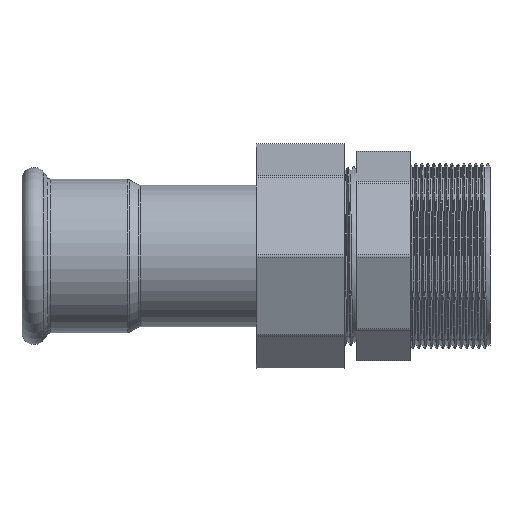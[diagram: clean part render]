
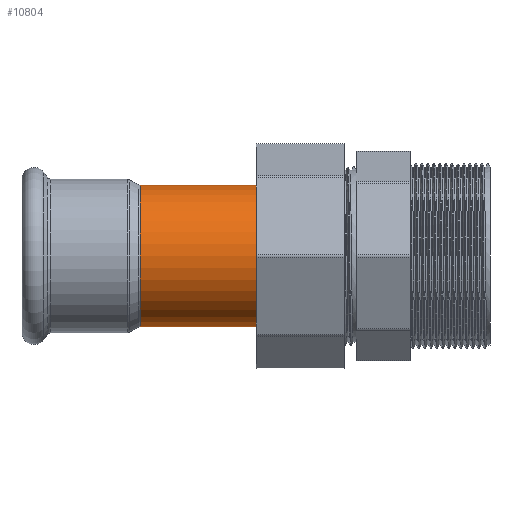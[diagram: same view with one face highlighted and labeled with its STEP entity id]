
A CAD part, front view. The second image highlights one B-rep face of the part: STEP entity #10804.
In plain terms, the highlighted cylindrical face has radius 17.65 mm (diameter 35.3 mm), a partial arc.
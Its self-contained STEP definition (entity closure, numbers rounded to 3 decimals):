
#213 = ORIENTED_EDGE ( 'NONE', *, *, #7346, .F. ) ;
#675 = LINE ( 'NONE', #7957, #11066 ) ;
#1008 = EDGE_CURVE ( 'NONE', #8528, #7680, #6172, .T. ) ;
#1134 = VERTEX_POINT ( 'NONE', #10989 ) ;
#2545 = DIRECTION ( 'NONE',  ( -1., 0., 0. ) ) ;
#2606 = ORIENTED_EDGE ( 'NONE', *, *, #1008, .T. ) ;
#2782 = FACE_OUTER_BOUND ( 'NONE', #10448, .T. ) ;
#2907 = EDGE_CURVE ( 'NONE', #8528, #1134, #7366, .T. ) ;
#2908 = DIRECTION ( 'NONE',  ( 1., 0., 0. ) ) ;
#2976 = DIRECTION ( 'NONE',  ( 0., 0., 1. ) ) ;
#3083 = DIRECTION ( 'NONE',  ( 0., 0., 1. ) ) ;
#3209 = AXIS2_PLACEMENT_3D ( 'NONE', #4527, #2908, #3738 ) ;
#3680 = CARTESIAN_POINT ( 'NONE',  ( 10., 0., 17.65 ) ) ;
#3738 = DIRECTION ( 'NONE',  ( 0., 0., -1. ) ) ;
#4527 = CARTESIAN_POINT ( 'NONE',  ( 10., 0., 0. ) ) ;
#5092 = EDGE_CURVE ( 'NONE', #7680, #9061, #7665, .T. ) ;
#6059 = DIRECTION ( 'NONE',  ( -1., 0., 0. ) ) ;
#6172 = LINE ( 'NONE', #9621, #7133 ) ;
#6407 = CYLINDRICAL_SURFACE ( 'NONE', #7161, 17.65 ) ;
#7133 = VECTOR ( 'NONE', #8663, 1000. ) ;
#7152 = CARTESIAN_POINT ( 'NONE',  ( -20.377, 0., 17.65 ) ) ;
#7161 = AXIS2_PLACEMENT_3D ( 'NONE', #10534, #6059, #3083 ) ;
#7203 = CARTESIAN_POINT ( 'NONE',  ( -20.377, 0., -17.65 ) ) ;
#7346 = EDGE_CURVE ( 'NONE', #1134, #9061, #675, .T. ) ;
#7366 = CIRCLE ( 'NONE', #3209, 17.65 ) ;
#7665 = CIRCLE ( 'NONE', #10909, 17.65 ) ;
#7680 = VERTEX_POINT ( 'NONE', #7152 ) ;
#7957 = CARTESIAN_POINT ( 'NONE',  ( 0., 0., -17.65 ) ) ;
#8367 = ORIENTED_EDGE ( 'NONE', *, *, #2907, .F. ) ;
#8376 = DIRECTION ( 'NONE',  ( 1., 0., 0. ) ) ;
#8528 = VERTEX_POINT ( 'NONE', #3680 ) ;
#8663 = DIRECTION ( 'NONE',  ( -1., 0., 0. ) ) ;
#9061 = VERTEX_POINT ( 'NONE', #7203 ) ;
#9621 = CARTESIAN_POINT ( 'NONE',  ( 0., 0., 17.65 ) ) ;
#10112 = CARTESIAN_POINT ( 'NONE',  ( -20.377, 0., 0. ) ) ;
#10448 = EDGE_LOOP ( 'NONE', ( #213, #8367, #2606, #10702 ) ) ;
#10534 = CARTESIAN_POINT ( 'NONE',  ( 0., 0., 0. ) ) ;
#10702 = ORIENTED_EDGE ( 'NONE', *, *, #5092, .T. ) ;
#10804 = ADVANCED_FACE ( 'NONE', ( #2782 ), #6407, .T. ) ;
#10909 = AXIS2_PLACEMENT_3D ( 'NONE', #10112, #8376, #2976 ) ;
#10989 = CARTESIAN_POINT ( 'NONE',  ( 10., 0., -17.65 ) ) ;
#11066 = VECTOR ( 'NONE', #2545, 1000. ) ;
